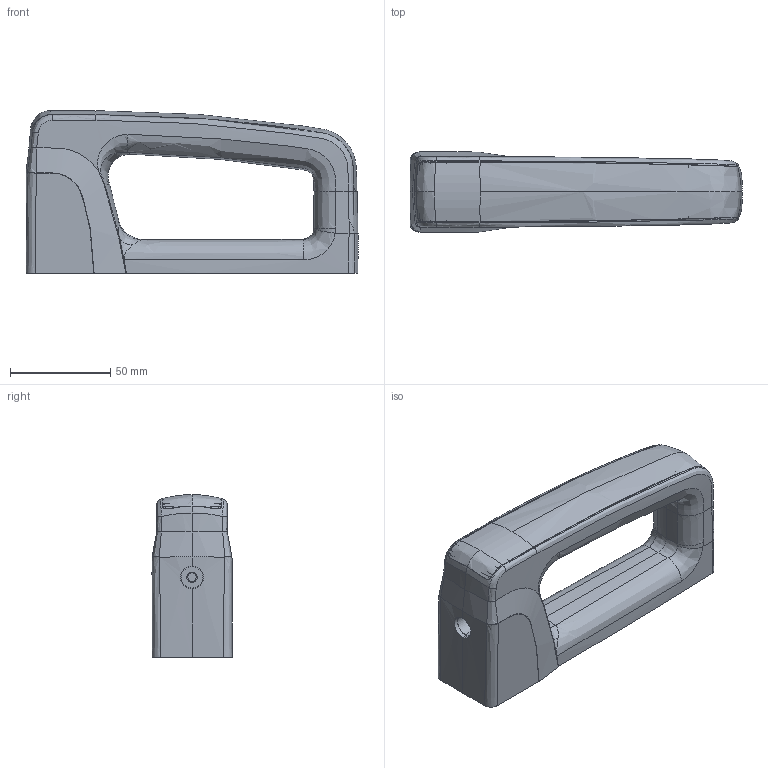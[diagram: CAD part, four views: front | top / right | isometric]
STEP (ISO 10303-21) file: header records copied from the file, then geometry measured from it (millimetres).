
FILE_DESCRIPTION (( 'STEP AP203' ), '1' );
FILE_NAME ('ZF_STEP_AN_Txx000x0.STEP', '2024-11-15T09:09:53', ( '' ), ( '' ), 'SwSTEP 2.0', 'SolidWorks 2023', '' );
FILE_SCHEMA (( 'CONFIG_CONTROL_DESIGN' ));
Length unit declared in the file: millimetre
Products named in the file (9): AN T-Maniglia senza foro_3dweb; AN T-Tag 9719_con staffa; AN T-Piastra 33610_3dweb_default; AN T-Porta tag_3dweb_piastrina; AN T-Porta tag_3dweb_senza piastrina; AN T-Piastra 33610_3dweb; AN T-Maniglia senza foro_3dweb_lente senza foro; AN T-Tag 9719_3dweb; ZF_STEP_AN_Txx000x0
Assembly tree (8 placements, depth 3):
  ZF_STEP_AN_Txx000x0
    AN T-Maniglia senza foro_3dweb
      AN T-Maniglia senza foro_3dweb_lente senza foro
    AN T-Porta tag_3dweb_senza piastrina
      AN T-Porta tag_3dweb_piastrina
    AN T-Piastra 33610_3dweb
      AN T-Piastra 33610_3dweb_default
    AN T-Tag 9719_3dweb
      AN T-Tag 9719_con staffa
Bounding box: 166 x 40 x 81.3 mm (x, y, z)
Volume: 258840.3 mm3; surface area: 96564.5 mm2
Topology: 6 solids, 8 shells, 806 faces, 2128 edges, 1356 vertices
Faces by surface type: bspline 264, plane 261, cylinder 224, cone 35, torus 14, sphere 8
Entity records: 49750 total; most frequent: CARTESIAN_POINT 31013, ORIENTED_EDGE 4252, DIRECTION 2911, EDGE_CURVE 2126, VERTEX_POINT 1356, AXIS2_PLACEMENT_3D 1044, EDGE_LOOP 858, VECTOR 823
